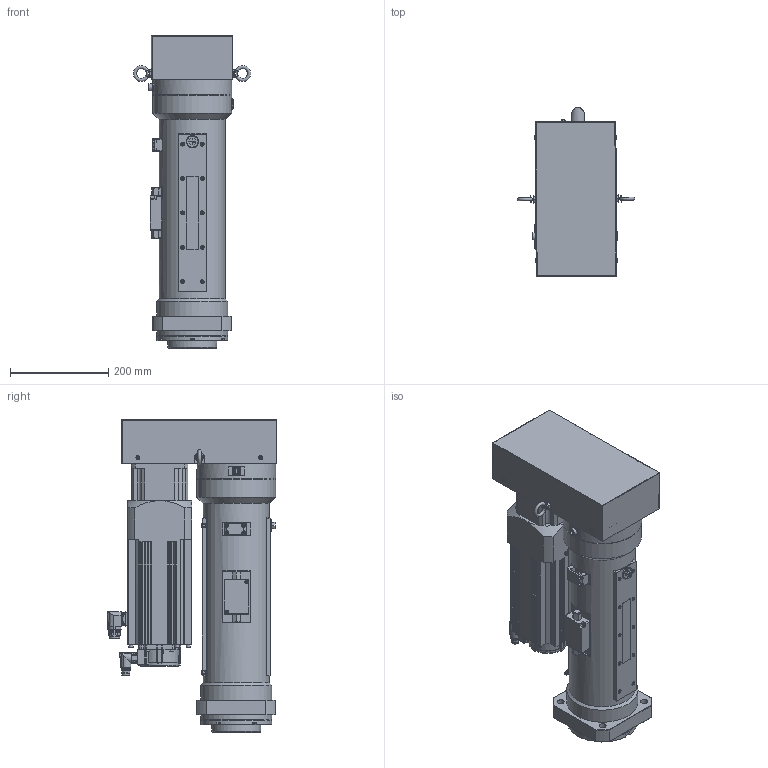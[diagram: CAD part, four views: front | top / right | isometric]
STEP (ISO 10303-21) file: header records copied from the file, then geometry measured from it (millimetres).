
FILE_DESCRIPTION(/* description */ (''),/* implementation_level */ '2;1');
FILE_NAME(/* name */ 'Z:\07.Product\01.Design\3D\1.P-All\OAICS-P\0000.Assembly\OACIS-P070,P080-250-200-A6V400.stp',/* time_stamp */ '2023-09-21T08:51:48+09:00',/* author */ ('magic'),/* organization */ (''),/* preprocessor_version */ 'ST-DEVELOPER v17',/* originating_system */ 'Autodesk Inventor 2019',/* authorisation */ '');
FILE_SCHEMA (('AUTOMOTIVE_DESIGN { 1 0 10303 214 3 1 1 }'));
Products named in the file (1): OACIS-P080-250-200-A6
Bounding box: 238.89 x 345.02 x 635 mm (x, y, z)
Volume: 12609931.6 mm3; surface area: 1408160.4 mm2
Topology: 2 solids, 7 shells, 2791 faces, 7572 edges, 5006 vertices
Faces by surface type: plane 1406, cylinder 812, cone 253, bspline 156, torus 104, sphere 60
Full cylindrical faces by diameter (mm): 1 x6, 1.25 x12, 2.232 x6, 2.8 x1, 3.242 x9, 4.134 x4, 5.5 x5, 5.8 x2, 6 x4, 6.5 x2, 6.647 x32, 6.75 x4, 7 x33, 7.2 x2, 7.24 x2, 7.8 x2, 8 x39, 8.5 x4, 9 x16, 9.188 x1, 10 x4, 10.3 x1, 11 x1, 12 x1, 13 x1, 13.4 x1, 13.835 x8, 14 x13, 15.54 x1, 16 x1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
Entity records: 103111 total; most frequent: CARTESIAN_POINT 29779, ORIENTED_EDGE 14911, DIRECTION 14710, EDGE_CURVE 7463, AXIS2_PLACEMENT_3D 5441, VERTEX_POINT 5006, LINE 3828, VECTOR 3828
